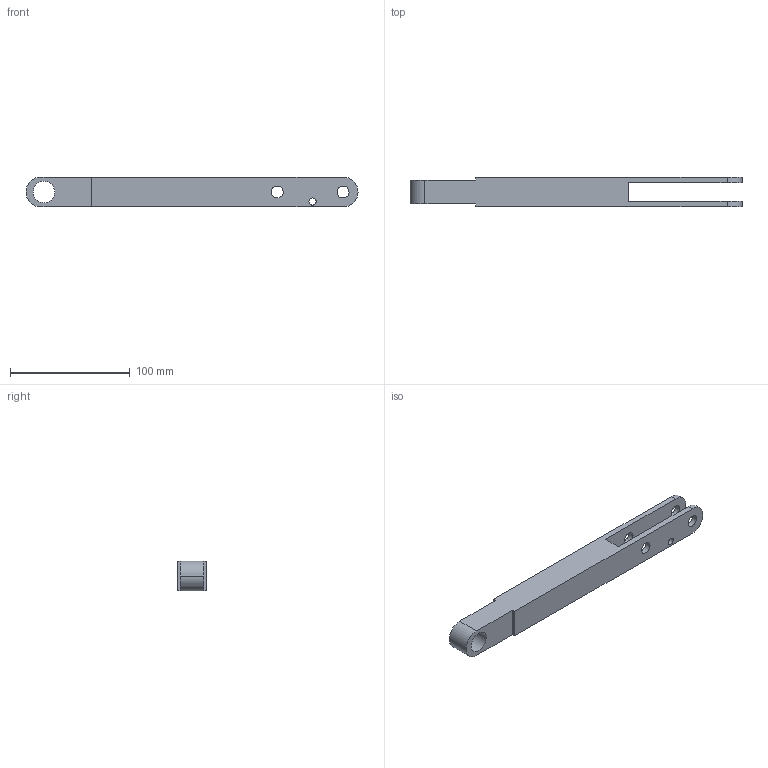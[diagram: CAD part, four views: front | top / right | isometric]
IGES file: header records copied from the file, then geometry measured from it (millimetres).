
Start section: File produced by SOLID-CONCEP (BRep Solid - Entity 186)
Global section: file name: 41.igs; native system: SOLID-CONCEPT V.5.xx; preprocessor: SOLID-CONCEPT-IGES-OUT v2.00; date: 090204.204209; units: millimetre
Bounding box: 277.5 x 25 x 25 mm (x, y, z)
Volume: 122031.6 mm3; surface area: 30307 mm2
Topology: 1 solids, 1 shells, 24 faces, 66 edges, 44 vertices
Faces by surface type: cylinder 13, plane 11
